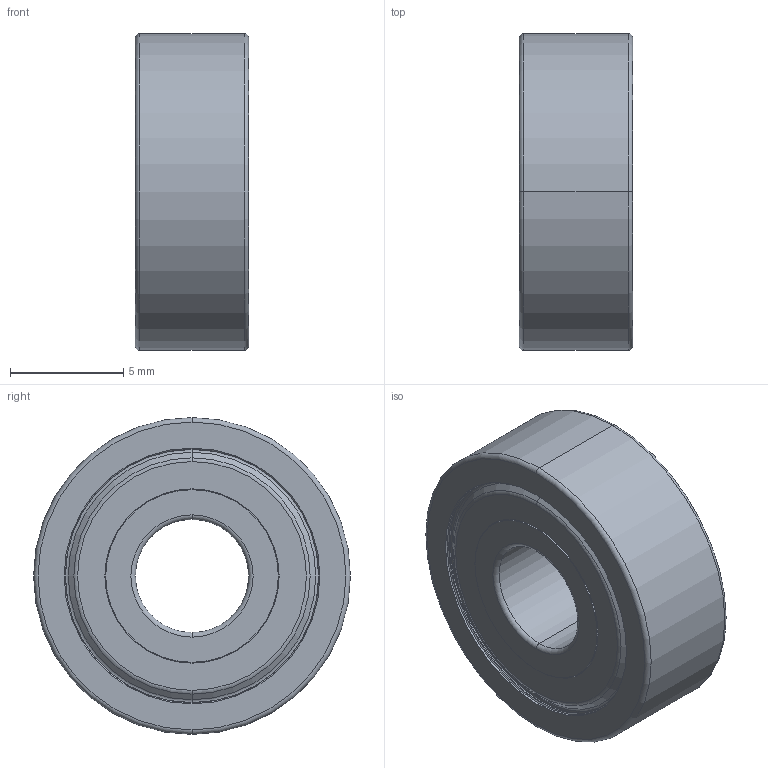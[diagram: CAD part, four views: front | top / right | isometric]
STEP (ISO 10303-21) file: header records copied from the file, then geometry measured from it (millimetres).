
FILE_DESCRIPTION((''),'2;1');
FILE_NAME('605ZZ_EA015','2025-12-19T16:14:44',('qinghui.yi'),(''),'CREO PARAMETRIC BY PTC INC, 2019164','CREO PARAMETRIC BY PTC INC, 2019164','');
FILE_SCHEMA(('CONFIG_CONTROL_DESIGN','SHAPE_APPEARANCE_LAYERS_GROUPS'));
Length unit declared in the file: millimetre
Products named in the file (1): 605ZZ_EA015
Bounding box: 5 x 14 x 14 mm (x, y, z)
Volume: 411.1 mm3; surface area: 1008.7 mm2
Topology: 2 solids, 2 shells, 88 faces, 178 edges, 104 vertices
Faces by surface type: torus 34, cylinder 24, cone 16, plane 14
Entity records: 2575 total; most frequent: DIRECTION 492, CARTESIAN_POINT 370, ORIENTED_EDGE 356, AXIS2_PLACEMENT_3D 226, COLOUR_RGB 196, EDGE_CURVE 178, CIRCLE 138, VERTEX_POINT 104
